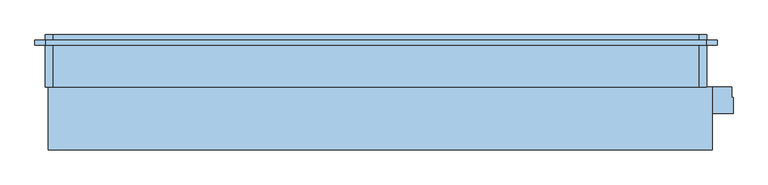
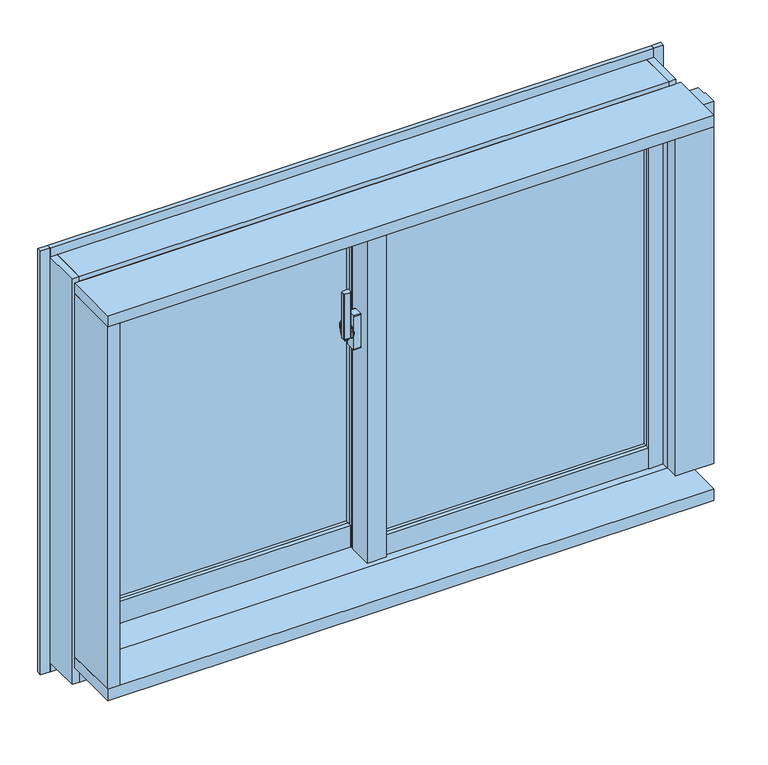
"""IFC4 building model written with IfcOpenShell, lengths in millimetres: window geometry, FNSⅡ100R_個別防火_面付枠_単窓 : 引違."""

import ifcopenshell
import ifcopenshell.guid

model = None  # the IFC model being written
_history = None  # IfcOwnerHistory: only IFC2X3 demands one
_inside = {}  # id of a spatial element -> (the spatial element, [elements in it])
_under = {}  # id of a project, library or spatial element -> (it, [spatial elements below it])
_declared = {}  # id of a project -> (the project, [libraries it declares])
_typed = {}  # id of a type object -> (the type object, [elements of that type])
_made_of = {}  # id of a material, layer set ... -> (it, [elements and type objects made of it])


def new_model(schema):
    """Start an empty IFC model of exactly this schema.

    Asked for "IFC4X3", IfcOpenShell would pick the latest addendum, in which some entities
    have other attributes; the version numbers below select the first issue.
    IFC2X3 requires an IfcOwnerHistory on every rooted entity: one is made here for all.
    """
    global model, _history
    if schema == "IFC4X3":
        model = ifcopenshell.file(schema_version=(4, 3, 0, 0))
    else:
        model = ifcopenshell.file(schema=schema)
    _inside.clear()
    _under.clear()
    _declared.clear()
    _typed.clear()
    _made_of.clear()
    _history = None
    if model.schema == "IFC2X3":
        org = make("IfcOrganization", Name="unknown")
        user = make(
            "IfcPersonAndOrganization",
            ThePerson=make("IfcPerson", FamilyName="unknown"),
            TheOrganization=org,
        )
        app = make(
            "IfcApplication",
            ApplicationDeveloper=org,
            Version="unknown",
            ApplicationFullName="unknown",
            ApplicationIdentifier="unknown",
        )
        _history = make(
            "IfcOwnerHistory",
            OwningUser=user,
            OwningApplication=app,
            ChangeAction="ADDED",
            CreationDate=0,
        )
    return model


def make(cls, **values):
    """One entity of the class cls with the attributes given. An attribute that is None is left unset."""
    return model.create_entity(
        cls, **{name: value for name, value in values.items() if value is not None}
    )


def rooted(cls, **values):
    """An entity with a GlobalId (a new one), such as an element, a storey or a relation."""
    return make(cls, GlobalId=ifcopenshell.guid.new(), OwnerHistory=_history, **values)


def si_unit(unit_type, name, prefix=None):
    """IfcSIUnit, for example si_unit("LENGTHUNIT", "METRE", prefix="MILLI")."""
    return make("IfcSIUnit", UnitType=unit_type, Prefix=prefix, Name=name)


def assignment(units):
    """IfcUnitAssignment: the units of a project."""
    return None if units is None else make("IfcUnitAssignment", Units=units)


def point(xyz):
    """IfcCartesianPoint."""
    return None if xyz is None else make("IfcCartesianPoint", Coordinates=xyz)


def direction(xyz):
    """IfcDirection."""
    return None if xyz is None else make("IfcDirection", DirectionRatios=xyz)


def frame(location, z_axis=None, x_axis=None):
    """IfcAxis2Placement3D, a coordinate frame: its origin and axes. An axis left out is left unset."""
    return make(
        "IfcAxis2Placement3D",
        Location=point(location),
        Axis=direction(z_axis),
        RefDirection=direction(x_axis),
    )


def frame_2d(location, x_axis=None):
    """IfcAxis2Placement2D, a coordinate frame in the plane: its origin and x axis."""
    return make(
        "IfcAxis2Placement2D", Location=point(location), RefDirection=direction(x_axis)
    )


def origin():
    """The frame at (0, 0, 0) with its axes left unset."""
    return frame((0.0, 0.0, 0.0))


def place(relative_to, where):
    """IfcLocalPlacement: puts the frame where relative to a parent placement (None: the world)."""
    return make(
        "IfcLocalPlacement", PlacementRelTo=relative_to, RelativePlacement=where
    )


def context(
    kind, dimensions, precision=None, world=None, true_north=None, identifier=None
):
    """IfcGeometricRepresentationContext, for example the 3D "Model" context."""
    return make(
        "IfcGeometricRepresentationContext",
        ContextIdentifier=identifier,
        ContextType=kind,
        CoordinateSpaceDimension=dimensions,
        Precision=precision,
        WorldCoordinateSystem=world,
        TrueNorth=true_north,
    )


def project(units=None, contexts=None):
    """IfcProject with its units and contexts."""
    return rooted(
        "IfcProject",
        Name="project",
        RepresentationContexts=contexts,
        UnitsInContext=assignment(units),
    )


def spatial(cls, under=None, at=None, **own):
    """A site, building, storey or space (cls), placed at a placement, below another one or the project."""
    s = rooted(cls, ObjectPlacement=at, **own)
    if under is not None:
        _under.setdefault(under.id(), (under, []))[1].append(s)
    return s


def polyline(points):
    """IfcPolyline through the points."""
    return make("IfcPolyline", Points=[point(p) for p in points])


def circle_curve(where, radius):
    """IfcCircle in the frame where."""
    return make("IfcCircle", Position=where, Radius=radius)


def trimmed(basis, trim1, trim2, sense, master):
    """IfcTrimmedCurve: the piece of a basis curve between two trims."""
    return make(
        "IfcTrimmedCurve",
        BasisCurve=basis,
        Trim1=trim1,
        Trim2=trim2,
        SenseAgreement=sense,
        MasterRepresentation=master,
    )


def segment(curve, same_sense, transition):
    """IfcCompositeCurveSegment."""
    return make(
        "IfcCompositeCurveSegment",
        Transition=transition,
        SameSense=same_sense,
        ParentCurve=curve,
    )


def composite_curve(segments, self_intersect=None):
    """IfcCompositeCurve: segments joined end to end."""
    return make("IfcCompositeCurve", Segments=segments, SelfIntersect=self_intersect)


def outline(outer, holes=None, kind="AREA"):
    """IfcArbitraryClosedProfileDef: a profile drawn as a closed curve; with holes, ...WithVoids."""
    if holes is None:
        return make("IfcArbitraryClosedProfileDef", ProfileType=kind, OuterCurve=outer)
    return make(
        "IfcArbitraryProfileDefWithVoids",
        ProfileType=kind,
        OuterCurve=outer,
        InnerCurves=holes,
    )


def extrude(swept, where, along, depth):
    """IfcExtrudedAreaSolid: the profile swept, set in the frame where, extruded along a direction by depth."""
    return make(
        "IfcExtrudedAreaSolid",
        SweptArea=swept,
        Position=where,
        ExtrudedDirection=direction(along),
        Depth=depth,
    )


def faces_of(points, faces, orient=None, outer=None):
    """IfcFace entities. A face is a list of loops; a loop is a list of indices into points, from 0.

    orient and outer hold one flag for each loop. By default every Orientation is true, the
    first loop of a face is its IfcFaceOuterBound and the others are IfcFaceBound.
    """
    made = []
    for i, loops in enumerate(faces):
        bounds = []
        for j, loop in enumerate(loops):
            is_outer = j == 0 if outer is None else outer[i][j]
            bounds.append(
                make(
                    "IfcFaceOuterBound" if is_outer else "IfcFaceBound",
                    Bound=make("IfcPolyLoop", Polygon=[points[k] for k in loop]),
                    Orientation=True if orient is None else orient[i][j],
                )
            )
        made.append(make("IfcFace", Bounds=bounds))
    return made


def faceted_brep(points, faces, orient=None, outer=None, voids=None):
    """IfcFacetedBrep: a solid bounded by flat faces; with voids (closed shells), ...WithVoids."""
    shared = [point(p) for p in points]
    hull = make("IfcClosedShell", CfsFaces=faces_of(shared, faces, orient, outer))
    if voids is None:
        return make("IfcFacetedBrep", Outer=hull)
    return make(
        "IfcFacetedBrepWithVoids",
        Outer=hull,
        Voids=[
            make(cls, CfsFaces=faces_of(shared, fs, o, b)) for cls, fs, o, b in voids
        ],
    )


def shape(context_of_items, identifier, shape_type, items):
    """IfcShapeRepresentation: the items that make up one representation, for example the "Body"."""
    return make(
        "IfcShapeRepresentation",
        ContextOfItems=context_of_items,
        RepresentationIdentifier=identifier,
        RepresentationType=shape_type,
        Items=items,
    )


def source(mapping_origin, context_of_items, identifier, shape_type, items):
    """IfcRepresentationMap: a shape defined once, which mapped items show again and again."""
    return make(
        "IfcRepresentationMap",
        MappingOrigin=mapping_origin,
        MappedRepresentation=shape(context_of_items, identifier, shape_type, items),
    )


def transform(
    local_origin,
    x_axis=None,
    y_axis=None,
    z_axis=None,
    scale=None,
    scale2=None,
    scale3=None,
    uniform=True,
):
    """IfcCartesianTransformationOperator3D, or its non-uniform kind. x_axis, y_axis, z_axis: its Axis1, 2, 3."""
    if uniform:
        return make(
            "IfcCartesianTransformationOperator3D",
            Axis1=direction(x_axis),
            Axis2=direction(y_axis),
            LocalOrigin=point(local_origin),
            Scale=scale,
            Axis3=direction(z_axis),
        )
    return make(
        "IfcCartesianTransformationOperator3DnonUniform",
        Axis1=direction(x_axis),
        Axis2=direction(y_axis),
        LocalOrigin=point(local_origin),
        Scale=scale,
        Axis3=direction(z_axis),
        Scale2=scale2,
        Scale3=scale3,
    )


def mapped(mapping_source, mapping_target):
    """IfcMappedItem: shows the shape of a source again, moved by a transform."""
    return make(
        "IfcMappedItem", MappingSource=mapping_source, MappingTarget=mapping_target
    )


def made_of(thing, what):
    """Note that an element or type object is made of a material, layer set ...; save() writes the relation."""
    if what is not None:
        _made_of.setdefault(what.id(), (what, []))[1].append(thing)
    return thing


def element(
    cls,
    number,
    at=None,
    inside=None,
    cuts=None,
    type_object=None,
    material=None,
    context=None,
    identifier="Body",
    shape_type=None,
    held_by="IfcProductDefinitionShape",
    body=None,
    shapes=None,
    **own,
):
    """One element of the class cls, such as IfcWall. Its Tag is "e" and its number.

    at: its placement. inside: the storey or other place that contains it. cuts: it is an
    opening in that element (IfcRelVoidsElement). A single representation is given by context,
    identifier, shape_type and body (its items); several are given by shapes. held_by: the class
    of the entity that holds the representations. save() writes the other relations.
    """
    e = rooted(cls, Tag="e%d" % number, ObjectPlacement=at, **own)
    if body is not None:
        shapes = [shape(context, identifier, shape_type, body)]
    if shapes is not None:
        e.Representation = make(held_by, Representations=shapes)
    if inside is not None:
        _inside.setdefault(inside.id(), (inside, []))[1].append(e)
    if cuts is not None:
        rooted(
            "IfcRelVoidsElement", RelatingBuildingElement=cuts, RelatedOpeningElement=e
        )
    if type_object is not None:
        _typed.setdefault(type_object.id(), (type_object, []))[1].append(e)
    return made_of(e, material)


def aggregate(whole, parts):
    """IfcRelAggregates: a whole, such as a stair, and the parts it consists of."""
    return rooted("IfcRelAggregates", RelatingObject=whole, RelatedObjects=parts)


def save(model, path):
    """Write the relations noted so far, then the file.

    IfcRelAggregates (storeys below a building ...), IfcRelContainedInSpatialStructure (elements
    in a storey), IfcRelDefinesByType, IfcRelAssociatesMaterial and IfcRelDeclares: one each for
    every whole, place, type object, material and project.
    """
    for whole, parts in _under.values():
        aggregate(whole, parts)
    for where, things in _inside.values():
        rooted(
            "IfcRelContainedInSpatialStructure",
            RelatedElements=things,
            RelatingStructure=where,
        )
    for kind, things in _typed.values():
        rooted("IfcRelDefinesByType", RelatedObjects=things, RelatingType=kind)
    for what, things in _made_of.values():
        rooted("IfcRelAssociatesMaterial", RelatedObjects=things, RelatingMaterial=what)
    for by, libraries in _declared.values():
        rooted("IfcRelDeclares", RelatingContext=by, RelatedDefinitions=libraries)
    model.write(path)


def plane_surface(at):
    """IfcPlane: the flat surface through the origin of the frame at, square to its z axis."""
    return make("IfcPlane", Position=at)


def cylinder_surface(at, radius):
    """IfcCylindricalSurface: all points at the distance radius from the z axis of the frame at."""
    return make("IfcCylindricalSurface", Position=at, Radius=radius)


def revolved_surface(curve, axis_point, axis_direction):
    """IfcSurfaceOfRevolution: the curve turned about the line through axis_point along axis_direction."""
    return make(
        "IfcSurfaceOfRevolution",
        SweptCurve=make("IfcArbitraryOpenProfileDef", ProfileType="CURVE", Curve=curve),
        AxisPosition=make("IfcAxis1Placement", Location=point(axis_point), Axis=direction(axis_direction)),
    )


def advanced_brep(points, edges, surfaces, faces):
    """IfcAdvancedBrep: a solid bounded by faces that lie on surfaces and meet in shared edges.

    An edge is (start, end): straight between two places in points (the first is 0);
    or (start, end, curve); or (start, end, curve, False) where it runs against its curve.
    A face is (place in surfaces, loops), or (place, loops, False) where it looks against
    its surface's normal. A loop lists edges by number (the first is 1), with a minus sign
    where the edge is run from its end to its start. The first loop is the outer one.
    """
    corners = [point(p) for p in points]
    vertices = [make("IfcVertexPoint", VertexGeometry=c) for c in corners]
    made = []
    for start, end, *more in edges:
        made.append(
            make(
                "IfcEdgeCurve",
                EdgeStart=vertices[start],
                EdgeEnd=vertices[end],
                EdgeGeometry=more[0] if more else make("IfcPolyline", Points=[corners[start], corners[end]]),
                SameSense=more[1] if len(more) > 1 else True,
            )
        )
    hull = []
    for where, loops, *sense in faces:
        bounds = []
        for j, loop in enumerate(loops):
            ring = [make("IfcOrientedEdge", EdgeElement=made[abs(k) - 1], Orientation=k > 0) for k in loop]
            bounds.append(
                make(
                    "IfcFaceOuterBound" if j == 0 else "IfcFaceBound",
                    Bound=make("IfcEdgeLoop", EdgeList=ring),
                    Orientation=True,
                )
            )
        hull.append(make("IfcAdvancedFace", Bounds=bounds, FaceSurface=surfaces[where], SameSense=sense[0] if sense else True))
    return make("IfcAdvancedBrep", Outer=make("IfcClosedShell", CfsFaces=hull))


def window_d622e456(model_context):
    return source(origin(), model_context, "Body", "SolidModel", [
        extrude(outline(composite_curve([segment(polyline([(-39.0, 34.6), (-39.0, 26.4)]), True, "CONTINUOUS"), segment(trimmed(circle_curve(frame_2d((-41.0, 26.4)), 2.0), [point((-39.0, 26.4))], [point((-41.3606557, 24.4327869))], False, "CARTESIAN"), True, "CONTINUOUS"), segment(polyline([(-41.3606557, 24.4327869), (-52.3606557, 26.4494536)]), True, "CONTINUOUS"), segment(trimmed(circle_curve(frame_2d((-52.0, 28.4166667)), 2.0), [point((-52.3606557, 26.4494536))], [point((-54.0, 28.4166667))], False, "CARTESIAN"), True, "CONTINUOUS"), segment(polyline([(-54.0, 28.4166667), (-54.0, 32.5833333)]), True, "CONTINUOUS"), segment(trimmed(circle_curve(frame_2d((-52.0, 32.5833333)), 2.0), [point((-54.0, 32.5833333))], [point((-52.3606557, 34.5505464))], False, "CARTESIAN"), True, "CONTINUOUS"), segment(polyline([(-52.3606557, 34.5505464), (-41.3606557, 36.5672131)]), True, "CONTINUOUS"), segment(trimmed(circle_curve(frame_2d((-41.0, 34.6)), 2.0), [point((-41.3606557, 36.5672131))], [point((-39.0, 34.6))], False, "CARTESIAN"), True, "CONTINUOUS")], self_intersect=False)), frame((0.0, 0.0, 1390.0), z_axis=(0.0, 0.0, 1.0), x_axis=(1.0, 0.0, 0.0)), (0.0, 0.0, 1.0), 100.0),
        advanced_brep(
        [(-37.5, 38.8234285, 1421.7333311), (-45.5, 38.8234285, 1421.7333311), (-45.5, 38.4351999, 1420.2844424), (-39.0, 38.4351999, 1420.2844424), (-39.0, 36.6234666, 1413.5229616), (-37.5, 36.6234666, 1413.5229616), (-39.0, 36.6466117, 1379.3190372), (-45.5, 36.6466117, 1379.3190372), (-45.5, 36.907084, 1377.8418256), (-37.5, 36.907084, 1377.8418256), (-37.5, 35.4310745, 1386.2126915), (-39.0, 35.4310745, 1386.2126915)],
        [
            (0, 1),
            (1, 2),
            (2, 3),
            (3, 4),
            (4, 5),
            (5, 0),
            (6, 7),
            (7, 8),
            (8, 9),
            (9, 10),
            (10, 11),
            (11, 6),
            (0, 9, circle_curve(frame((-37.5, 33.0, 1400.0), z_axis=(-1.0, 0.0, 0.0), x_axis=(0.0, 0.25881904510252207, 0.965925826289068)), 22.5)),
            (8, 1, circle_curve(frame((-45.5, 33.0, 1400.0), z_axis=(1.0, 0.0, 0.0), x_axis=(0.0, 0.25881904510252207, 0.965925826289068)), 22.5)),
            (7, 2, circle_curve(frame((-45.5, 33.0, 1400.0), z_axis=(1.0, 0.0, 0.0), x_axis=(0.0, 0.25881904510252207, 0.965925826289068)), 21.0)),
            (6, 3, circle_curve(frame((-39.0, 33.0, 1400.0), z_axis=(1.0, 0.0, 0.0), x_axis=(0.0, 0.25881904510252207, 0.965925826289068)), 21.0)),
            (11, 4, circle_curve(frame((-39.0, 33.0, 1400.0), z_axis=(-1.0, 0.0, 0.0), x_axis=(0.0, -1.0, 0.0)), 14.0)),
            (5, 10, circle_curve(frame((-37.5, 33.0, 1400.0), z_axis=(1.0, 0.0, 0.0), x_axis=(0.0, -1.0, 0.0)), 14.0)),
        ],
        [
            plane_surface(frame((-43.5470497, 33.0, 1400.0), z_axis=(0.0, -0.965925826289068, 0.25881904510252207), x_axis=(0.0, 0.25881904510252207, 0.965925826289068))),
            plane_surface(frame((-43.5470497, 33.0, 1400.0), z_axis=(0.0, -0.9848077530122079, -0.17364817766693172), x_axis=(0.0, 0.17364817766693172, -0.9848077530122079))),
            cylinder_surface(frame((-43.5470497, 33.0, 1400.0), z_axis=(-1.0, 0.0, 0.0), x_axis=(0.0, 0.25881904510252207, 0.965925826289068)), 22.5),
            plane_surface(frame((-45.5, 33.0, 1400.0), z_axis=(-1.0, 0.0, 0.0), x_axis=(0.0, 0.25881904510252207, 0.965925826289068))),
            revolved_surface(polyline([(-45.5, 38.43519994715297, 1420.2844423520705), (-39.0, 38.43519994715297, 1420.2844423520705)]), (-43.5470497, 33.0, 1400.0), (-1.0, 0.0, 0.0)),
            plane_surface(frame((-39.0, 33.0, 1400.0), z_axis=(-1.0, 0.0, 0.0), x_axis=(0.0, 0.25881904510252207, 0.965925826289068))),
            plane_surface(frame((-37.5, 33.0, 1400.0), z_axis=(1.0, 0.0, 0.0), x_axis=(0.0, 0.25881904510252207, 0.965925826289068))),
            cylinder_surface(frame((-37.5, 33.0, 1400.0), z_axis=(-1.0, 0.0, 0.0), x_axis=(0.0, -1.0, 0.0)), 14.0),
        ],
        [
            (0, [[1, 2, 3, 4, 5, 6]]),
            (1, [[7, 8, 9, 10, 11, 12]]),
            (2, [[-1, 13, -9, 14]]),
            (3, [[-2, -14, -8, 15]]),
            (4, [[-3, -15, -7, 16]]),
            (5, [[-16, -12, 17, -4]]),
            (6, [[-13, -6, 18, -10]]),
            (7, [[-17, -11, -18, -5]]),
        ],
    ),
        extrude(outline(composite_curve([segment(trimmed(circle_curve(frame_2d((33.0, 1400.0)), 11.5), [point((44.5, 1400.0))], [point((21.5, 1400.0))], False, "CARTESIAN"), True, "CONTINUOUS"), segment(trimmed(circle_curve(frame_2d((33.0, 1400.0)), 11.5), [point((21.5, 1400.0))], [point((44.5, 1400.0))], False, "CARTESIAN"), True, "CONTINUOUS")], self_intersect=False)), frame((-37.5, 0.0, 0.0), z_axis=(1.0, 0.0, 0.0), x_axis=(0.0, 1.0, 0.0)), (0.0, 0.0, 1.0), 2.5),
        extrude(outline(composite_curve([segment(polyline([(24.0, 1437.5), (42.0, 1437.5)]), True, "CONTINUOUS"), segment(trimmed(circle_curve(frame_2d((42.0, 1435.5)), 2.0), [point((42.0, 1437.5))], [point((44.0, 1435.5))], False, "CARTESIAN"), True, "CONTINUOUS"), segment(polyline([(44.0, 1435.5), (44.0, 1364.5)]), True, "CONTINUOUS"), segment(trimmed(circle_curve(frame_2d((42.0, 1364.5)), 2.0), [point((44.0, 1364.5))], [point((42.0, 1362.5))], False, "CARTESIAN"), True, "CONTINUOUS"), segment(polyline([(42.0, 1362.5), (24.0, 1362.5)]), True, "CONTINUOUS"), segment(trimmed(circle_curve(frame_2d((24.0, 1364.5)), 2.0), [point((24.0, 1362.5))], [point((22.0, 1364.5))], False, "CARTESIAN"), True, "CONTINUOUS"), segment(polyline([(22.0, 1364.5), (22.0, 1435.5)]), True, "CONTINUOUS"), segment(trimmed(circle_curve(frame_2d((24.0, 1435.5)), 2.0), [point((22.0, 1435.5))], [point((24.0, 1437.5))], False, "CARTESIAN"), True, "CONTINUOUS")], self_intersect=False)), frame((-35.0, 0.0, 0.0), z_axis=(1.0, 0.0, 0.0), x_axis=(0.0, 1.0, 0.0)), (0.0, 0.0, 1.0), 15.0),
        extrude(outline(polyline([(20.0, 24.0), (568.0, 24.0), (568.0, 18.0), (20.0, 18.0), (20.0, 24.0)])), frame((0.0, 0.0, 948.0), z_axis=(0.0, 0.0, 1.0), x_axis=(1.0, 0.0, 0.0)), (0.0, 0.0, 1.0), 712.0),
        extrude(outline(polyline([(20.0, 42.0), (568.0, 42.0), (568.0, 36.0), (20.0, 36.0), (20.0, 42.0)])), frame((0.0, 0.0, 948.0), z_axis=(0.0, 0.0, 1.0), x_axis=(1.0, 0.0, 0.0)), (0.0, 0.0, 1.0), 712.0),
        extrude(outline(polyline([(-568.0, 82.0), (-20.0, 82.0), (-20.0, 76.0), (-568.0, 76.0), (-568.0, 82.0)])), frame((0.0, 0.0, 948.0), z_axis=(0.0, 0.0, 1.0), x_axis=(1.0, 0.0, 0.0)), (0.0, 0.0, 1.0), 712.0),
        extrude(outline(polyline([(-568.0, 100.0), (-20.0, 100.0), (-20.0, 94.0), (-568.0, 94.0), (-568.0, 100.0)])), frame((0.0, 0.0, 948.0), z_axis=(0.0, 0.0, 1.0), x_axis=(1.0, 0.0, 0.0)), (0.0, 0.0, 1.0), 712.0),
        faceted_brep([(-589.5, 79.0, 1700.0), (-600.0, 79.0, 1700.0), (-600.0, 79.0, 860.0), (-568.0, 79.0, 860.0), (-568.0, 79.0, 900.0), (-589.5, 79.0, 900.0), (-589.5, 66.0, 1700.0), (-589.5, 66.0, 900.0), (-568.0, 66.0, 1700.0), (-568.0, 66.0, 900.0), (-600.0, 108.0, 1700.0), (-568.0, 108.0, 1700.0), (-568.0, 108.0, 860.0), (-600.0, 108.0, 860.0)], [[[0, 1, 2, 3, 4, 5]], [[6, 0, 5, 7]], [[8, 6, 7, 9]], [[10, 11, 12, 13]], [[2, 1, 10, 13]], [[5, 4, 9, 7]], [[1, 0, 6, 8, 11, 10]], [[3, 2, 13, 12]], [[11, 8, 9, 4, 3, 12]]]),
        faceted_brep([(-1.8, 65.5, 1700.0), (-20.0, 65.5, 1700.0), (-20.0, 65.5, 900.0), (-1.8, 65.5, 900.0), (-1.8, 53.1, 1700.0), (-1.8, 53.1, 900.0), (20.0, 53.1, 1700.0), (20.0, 53.1, 900.0), (-20.0, 108.0, 1700.0), (20.0, 108.0, 1700.0), (20.0, 108.0, 860.0), (-20.0, 108.0, 860.0), (-20.0, 79.0, 900.0), (20.0, 79.0, 900.0), (20.0, 79.0, 860.0), (-20.0, 79.0, 860.0)], [[[0, 1, 2, 3]], [[4, 0, 3, 5]], [[6, 4, 5, 7]], [[8, 9, 10, 11]], [[12, 13, 7, 5, 3, 2]], [[1, 0, 4, 6, 9, 8]], [[11, 10, 14, 15]], [[9, 6, 7, 13, 14, 10]], [[1, 8, 11, 15, 12, 2]], [[13, 12, 15, 14]]]),
        extrude(outline(polyline([(-20.0, 53.1), (-15.0, 53.1), (-15.0, 8.0), (15.0, 8.0), (15.0, 12.0), (20.0, 12.0), (20.0, 0.0), (-20.0, 0.0), (-20.0, 53.1)])), frame((0.0, 0.0, 900.0), z_axis=(0.0, 0.0, 1.0), x_axis=(1.0, 0.0, 0.0)), (0.0, 0.0, 1.0), 800.0),
        extrude(outline(polyline([(-15.0, 53.1), (20.0, 53.1), (20.0, 12.0), (15.0, 12.0), (15.0, 8.0), (-15.0, 8.0), (-15.0, 53.1)])), frame((0.0, 0.0, 900.0), z_axis=(0.0, 0.0, 1.0), x_axis=(1.0, 0.0, 0.0)), (0.0, 0.0, 1.0), 800.0),
        extrude(outline(polyline([(568.0, 0.0), (568.0, 8.0), (589.5, 8.0), (589.5, 21.0), (597.0, 21.0), (597.0, 0.0), (568.0, 0.0)])), frame((0.0, 0.0, 903.0), z_axis=(0.0, 0.0, 1.0), x_axis=(1.0, 0.0, 0.0)), (0.0, 0.0, 1.0), 797.0),
        extrude(outline(polyline([(568.0, 50.0), (600.0, 50.0), (600.0, 21.0), (589.5, 21.0), (589.5, 8.0), (568.0, 8.0), (568.0, 50.0)])), frame((0.0, 0.0, 900.0), z_axis=(0.0, 0.0, 1.0), x_axis=(1.0, 0.0, 0.0)), (0.0, 0.0, 1.0), 800.0),
        extrude(outline(polyline([(-1.85, 65.5), (-1.85, 58.0), (-20.0, 58.0), (-20.0, 65.5), (-1.85, 65.5)])), frame((0.0, 0.0, 900.0), z_axis=(0.0, 0.0, 1.0), x_axis=(1.0, 0.0, 0.0)), (0.0, 0.0, 1.0), 800.0),
        extrude(outline(polyline([(-597.0, 79.0), (-589.5, 79.0), (-589.5, 66.0), (-568.0, 66.0), (-568.0, 58.0), (-597.0, 58.0), (-597.0, 79.0)])), frame((0.0, 0.0, 900.0), z_axis=(0.0, 0.0, 1.0), x_axis=(1.0, 0.0, 0.0)), (0.0, 0.0, 1.0), 800.0),
        extrude(outline(polyline([(2.0, 903.0), (2.0, 948.0), (10.0, 948.0), (10.0, 925.5), (21.0, 925.5), (21.0, 903.0), (2.0, 903.0)])), frame((20.0, 0.0, 0.0), z_axis=(1.0, 0.0, 0.0), x_axis=(0.0, 1.0, 0.0)), (0.0, 0.0, 1.0), 548.0),
        extrude(outline(polyline([(50.0, 900.0), (21.0, 900.0), (21.0, 925.5), (10.0, 925.5), (10.0, 948.0), (50.0, 948.0), (50.0, 900.0)])), frame((20.0, 0.0, 0.0), z_axis=(1.0, 0.0, 0.0), x_axis=(0.0, 1.0, 0.0)), (0.0, 0.0, 1.0), 548.0),
        extrude(outline(polyline([(60.0, 948.0), (68.0, 948.0), (68.0, 925.5), (79.0, 925.5), (79.0, 900.0), (60.0, 900.0), (60.0, 948.0)])), frame((-568.0, 0.0, 0.0), z_axis=(1.0, 0.0, 0.0), x_axis=(0.0, 1.0, 0.0)), (0.0, 0.0, 1.0), 548.0),
        extrude(outline(polyline([(108.0, 860.0), (79.0, 860.0), (79.0, 925.5), (68.0, 925.5), (68.0, 948.0), (108.0, 948.0), (108.0, 860.0)])), frame((-568.0, 0.0, 0.0), z_axis=(1.0, 0.0, 0.0), x_axis=(0.0, 1.0, 0.0)), (0.0, 0.0, 1.0), 548.0),
        extrude(outline(polyline([(23.0, 1680.5), (10.0, 1680.5), (10.0, 1660.0), (2.0, 1660.0), (2.0, 1700.0), (23.0, 1700.0), (23.0, 1680.5)])), frame((20.0, 0.0, 0.0), z_axis=(1.0, 0.0, 0.0), x_axis=(0.0, 1.0, 0.0)), (0.0, 0.0, 1.0), 548.0),
        extrude(outline(polyline([(50.0, 1700.0), (50.0, 1660.0), (10.0, 1660.0), (10.0, 1680.5), (23.0, 1680.5), (23.0, 1700.0), (50.0, 1700.0)])), frame((20.0, 0.0, 0.0), z_axis=(1.0, 0.0, 0.0), x_axis=(0.0, 1.0, 0.0)), (0.0, 0.0, 1.0), 548.0),
        extrude(outline(polyline([(81.0, 1680.5), (68.0, 1680.5), (68.0, 1660.0), (60.0, 1660.0), (60.0, 1700.0), (81.0, 1700.0), (81.0, 1680.5)])), frame((-568.0, 0.0, 0.0), z_axis=(1.0, 0.0, 0.0), x_axis=(0.0, 1.0, 0.0)), (0.0, 0.0, 1.0), 548.0),
        extrude(outline(polyline([(108.0, 1700.0), (108.0, 1660.0), (68.0, 1660.0), (68.0, 1680.5), (81.0, 1680.5), (81.0, 1700.0), (108.0, 1700.0)])), frame((-568.0, 0.0, 0.0), z_axis=(1.0, 0.0, 0.0), x_axis=(0.0, 1.0, 0.0)), (0.0, 0.0, 1.0), 548.0),
        extrude(outline(polyline([(-15.0, 80.3), (-15.0, 31.9), (-600.0, 31.9), (-600.0, 80.3), (-15.0, 80.3)])), frame((0.0, 0.0, 1700.0), z_axis=(0.0, 0.0, 1.0), x_axis=(1.0, 0.0, 0.0)), (0.0, 0.0, 1.0), 25.0),
        faceted_brep([(615.0, 80.3, 1725.0), (615.0, 10.0, 1725.0), (-615.0, 10.0, 1725.0), (-615.0, 80.3, 1725.0), (-15.0, 80.3, 1725.0), (-15.0, 31.9, 1725.0), (600.0, 31.9, 1725.0), (600.0, 80.3, 1725.0), (-615.0, 80.3, 1700.0), (-15.0, 80.3, 1700.0), (615.0, 80.3, 1700.0), (600.0, 80.3, 1700.0), (615.0, 110.0, 1700.0), (600.0, 31.9, 1700.0), (-15.0, 31.9, 1700.0), (-615.0, 110.0, 1700.0), (615.0, 110.0, 1735.0), (-615.0, 110.0, 1735.0), (615.0, 10.0, 1735.0), (-615.0, 10.0, 1735.0)], [[[0, 1, 2, 3, 4, 5, 6, 7]], [[3, 8, 9, 4]], [[10, 0, 7, 11]], [[12, 10, 11, 13, 14, 9, 8, 15]], [[16, 12, 15, 17]], [[18, 16, 17, 19]], [[1, 18, 19, 2]], [[12, 16, 18, 1, 0, 10]], [[15, 8, 3, 2, 19, 17]], [[6, 13, 11, 7]], [[9, 14, 5, 4]], [[13, 6, 5, 14]]]),
        extrude(outline(polyline([(31.9, 1700.0), (-10.0, 1700.0), (-10.0, 1703.0), (10.0, 1703.0), (10.0, 1725.0), (31.9, 1725.0), (31.9, 1700.0)])), frame((-600.0, 0.0, 0.0), z_axis=(1.0, 0.0, 0.0), x_axis=(0.0, 1.0, 0.0)), (0.0, 0.0, 1.0), 1200.0),
        faceted_brep([(600.0, -10.0, 900.0), (603.0, -10.0, 900.0), (603.0, -10.0, 1703.0), (600.0, -10.0, 1703.0), (600.0, 14.5, 1720.0), (615.0, 14.5, 1720.0), (615.0, 14.5, 900.0), (600.0, 14.5, 900.0), (600.0, 10.0, 1703.0), (600.0, 10.0, 1720.0), (603.0, 10.0, 1703.0), (615.0, 10.0, 1720.0), (615.0, 10.0, 900.0), (603.0, 10.0, 900.0)], [[[0, 1, 2, 3]], [[4, 5, 6, 7]], [[7, 0, 3, 8, 9, 4]], [[10, 8, 3, 2]], [[9, 11, 5, 4]], [[0, 7, 6, 12, 13, 1]], [[1, 13, 10, 2]], [[9, 8, 10, 13, 12, 11]], [[5, 11, 12, 6]]]),
        faceted_brep([(-615.0, 76.0, 1720.0), (-600.0, 76.0, 1720.0), (-600.0, 76.0, 900.0), (-615.0, 76.0, 900.0), (-615.0, 10.0, 1720.0), (-600.0, 10.0, 1720.0), (-615.0, 10.0, 900.0), (-600.0, -10.0, 900.0), (-603.0, -10.0, 900.0), (-603.0, 10.0, 900.0), (-603.0, 10.0, 1703.0), (-600.0, 10.0, 1703.0), (-603.0, -10.0, 1703.0), (-600.0, -10.0, 1703.0)], [[[0, 1, 2, 3]], [[4, 5, 1, 0]], [[6, 3, 2, 7, 8, 9]], [[6, 9, 10, 11, 5, 4]], [[9, 8, 12, 10]], [[8, 7, 13, 12]], [[7, 2, 1, 5, 11, 13]], [[6, 4, 0, 3]], [[11, 10, 12, 13]]]),
        faceted_brep([(-630.0, 110.0, 840.0), (-615.0, 110.0, 840.0), (-615.0, 10.0, 840.0), (-630.0, 10.0, 840.0), (-615.0, 10.0, 1735.0), (-630.0, 10.0, 1735.0), (-600.0, 110.0, 849.0), (-600.0, 76.0, 849.0), (-615.0, 76.0, 849.0), (-615.0, 110.0, 849.0), (-600.0, 76.0, 1700.0), (-615.0, 76.0, 1700.0), (-630.0, 110.0, 1735.0), (-615.0, 110.0, 1735.0), (-615.0, 110.0, 1700.0), (-600.0, 110.0, 1700.0)], [[[0, 1, 2, 3]], [[4, 5, 3, 2]], [[6, 7, 8, 9]], [[10, 11, 8, 7]], [[12, 5, 4, 13]], [[5, 12, 0, 3]], [[13, 4, 2, 1, 9, 8, 11, 14]], [[12, 13, 14, 15, 6, 9, 1, 0]], [[15, 14, 11, 10]], [[15, 10, 7, 6]]]),
        faceted_brep([(615.0, 10.0, 840.0), (615.0, 110.0, 840.0), (630.0, 110.0, 840.0), (630.0, 10.0, 840.0), (600.0, 14.5, 849.0), (600.0, 110.0, 849.0), (615.0, 110.0, 849.0), (615.0, 14.5, 849.0), (615.0, 10.0, 1735.0), (615.0, 110.0, 1735.0), (615.0, 110.0, 1700.0), (615.0, 14.5, 1700.0), (630.0, 10.0, 1735.0), (630.0, 110.0, 1735.0), (600.0, 14.5, 1700.0), (600.0, 110.0, 1700.0)], [[[0, 1, 2, 3]], [[4, 5, 6, 7]], [[8, 9, 10, 11, 7, 6, 1, 0]], [[8, 12, 13, 9]], [[11, 14, 4, 7]], [[14, 15, 5, 4]], [[14, 11, 10, 15]], [[12, 8, 0, 3]], [[13, 12, 3, 2]], [[9, 13, 2, 1, 6, 5, 15, 10]]]),
        faceted_brep([(615.0, 76.0, 849.0), (615.0, 110.0, 849.0), (-615.0, 110.0, 849.0), (-615.0, 76.0, 849.0), (615.0, 10.0, 884.0), (615.0, 76.0, 884.0), (-615.0, 76.0, 884.0), (-615.0, 10.0, 884.0), (600.0, 37.25, 884.0), (600.0, 18.8, 884.0), (-15.0, 18.8, 884.0), (-15.0, 37.25, 884.0), (615.0, 110.0, 840.0), (615.0, 10.0, 840.0), (-615.0, 10.0, 840.0), (-615.0, 110.0, 840.0), (600.0, 18.8, 900.0), (600.0, 37.25, 900.0), (-15.0, 18.8, 900.0), (-15.0, 37.25, 900.0)], [[[0, 1, 2, 3]], [[4, 5, 6, 7], [8, 9, 10, 11]], [[5, 0, 3, 6]], [[12, 13, 14, 15]], [[12, 1, 0, 5, 4, 13]], [[15, 14, 7, 6, 3, 2]], [[13, 4, 7, 14]], [[1, 12, 15, 2]], [[16, 9, 8, 17]], [[18, 19, 11, 10]], [[9, 16, 18, 10]], [[17, 8, 11, 19]], [[16, 17, 19, 18]]]),
        faceted_brep([(-603.0, 10.0, 884.0), (-603.0, 10.0, 897.0), (-603.0, -10.0, 897.0), (-603.0, -10.0, 900.0), (-603.0, 18.8, 900.0), (-603.0, 18.8, 884.0), (603.0, 10.0, 897.0), (603.0, -10.0, 897.0), (603.0, -10.0, 900.0), (603.0, 14.5, 900.0), (600.0, 14.5, 900.0), (600.0, 18.8, 900.0), (-15.0, 18.8, 900.0), (-15.0, 76.0, 900.0), (-600.0, 76.0, 900.0), (-600.0, 18.8, 900.0), (-600.0, 18.8, 884.0), (600.0, 18.8, 884.0), (-15.0, 18.8, 884.0), (603.0, 10.0, 884.0), (603.0, 14.5, 884.0), (-600.0, 76.0, 884.0), (-15.0, 76.0, 884.0), (600.0, 14.5, 884.0)], [[[0, 1, 2, 3, 4, 5]], [[6, 7, 2, 1]], [[7, 8, 3, 2]], [[4, 3, 8, 9, 10, 11, 12, 13, 14, 15]], [[5, 4, 15, 16]], [[11, 17, 18, 12]], [[8, 7, 6, 19, 20, 9]], [[19, 6, 1, 0]], [[0, 5, 16, 21, 22, 18, 17, 23, 20, 19]], [[10, 23, 17, 11]], [[23, 10, 9, 20]], [[13, 12, 18, 22]], [[14, 21, 16, 15]], [[13, 22, 21, 14]]]),
        extrude(outline(polyline([(-110.0, 900.0), (-10.0, 900.0), (-10.0, 897.0), (10.0, 897.0), (10.0, 875.0), (-110.0, 875.0), (-110.0, 900.0)])), frame((-625.0, 0.0, 0.0), z_axis=(1.0, 0.0, 0.0), x_axis=(0.0, 1.0, 0.0)), (0.0, 0.0, 1.0), 1265.0),
        extrude(outline(polyline([(-630.0, 90.0), (-630.0, 100.0), (630.0, 100.0), (630.0, 90.0), (-630.0, 90.0)])), frame((0.0, 0.0, 820.0), z_axis=(0.0, 0.0, 1.0), x_axis=(1.0, 0.0, 0.0)), (0.0, 0.0, 1.0), 20.0),
        extrude(outline(polyline([(-603.0, 10.0), (-603.0, -10.0), (-600.0, -10.0), (-600.0, -110.0), (-625.0, -110.0), (-625.0, 10.0), (-603.0, 10.0)])), frame((0.0, 0.0, 900.0), z_axis=(0.0, 0.0, 1.0), x_axis=(1.0, 0.0, 0.0)), (0.0, 0.0, 1.0), 800.0),
        extrude(outline(polyline([(-650.0, 90.0), (-650.0, 100.0), (-630.0, 100.0), (-630.0, 90.0), (-650.0, 90.0)])), frame((0.0, 0.0, 820.0), z_axis=(0.0, 0.0, 1.0), x_axis=(1.0, 0.0, 0.0)), (0.0, 0.0, 1.0), 935.0),
        extrude(outline(polyline([(650.0, 90.0), (630.0, 90.0), (630.0, 100.0), (650.0, 100.0), (650.0, 90.0)])), frame((0.0, 0.0, 820.0), z_axis=(0.0, 0.0, 1.0), x_axis=(1.0, 0.0, 0.0)), (0.0, 0.0, 1.0), 935.0),
        extrude(outline(polyline([(603.0, -10.0), (603.0, 10.0), (677.0, 10.0), (677.0, -10.0), (680.0, -10.0), (680.0, -40.0), (600.0, -40.0), (600.0, -10.0), (603.0, -10.0)])), frame((0.0, 0.0, 900.0), z_axis=(0.0, 0.0, 1.0), x_axis=(1.0, 0.0, 0.0)), (0.0, 0.0, 1.0), 800.0),
        extrude(outline(polyline([(-110.0, 1725.0), (10.0, 1725.0), (10.0, 1703.0), (-10.0, 1703.0), (-10.0, 1700.0), (-110.0, 1700.0), (-110.0, 1725.0)])), frame((-625.0, 0.0, 0.0), z_axis=(1.0, 0.0, 0.0), x_axis=(0.0, 1.0, 0.0)), (0.0, 0.0, 1.0), 1265.0),
        extrude(outline(polyline([(-630.0, 90.0), (-630.0, 100.0), (630.0, 100.0), (630.0, 90.0), (-630.0, 90.0)])), frame((0.0, 0.0, 1735.0), z_axis=(0.0, 0.0, 1.0), x_axis=(1.0, 0.0, 0.0)), (0.0, 0.0, 1.0), 20.0),
    ])


if __name__ == "__main__":
    model = new_model("IFC4")
    model_context = context("Model", 3, world=origin())
    ifc_project = project(units=[si_unit("LENGTHUNIT", "METRE", prefix="MILLI")], contexts=[model_context])
    site = spatial("IfcSite", under=ifc_project)
    building = spatial("IfcBuilding", under=site)
    placement = place(None, origin())
    window_shape = window_d622e456(model_context)
    element("IfcWindow", 1, ObjectType="FNSⅡ100R_個別防火_面付枠_単窓 : 引違", at=placement, inside=building, context=model_context, shape_type="MappedRepresentation", body=[
        mapped(window_shape, transform((0.0, 0.0, 0.0), x_axis=(1.0, 0.0, 0.0), y_axis=(0.0, 1.0, 0.0), z_axis=(0.0, 0.0, 1.0))),
    ])
    save(model, "model.ifc")
